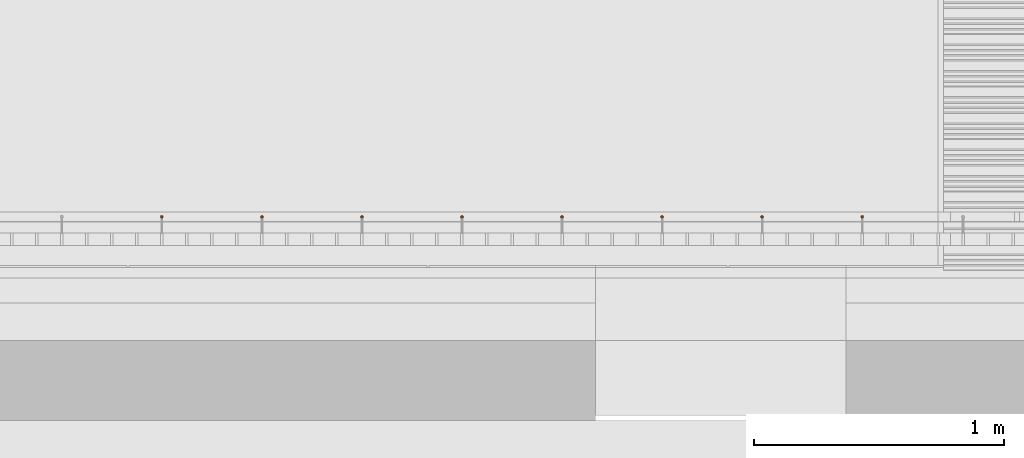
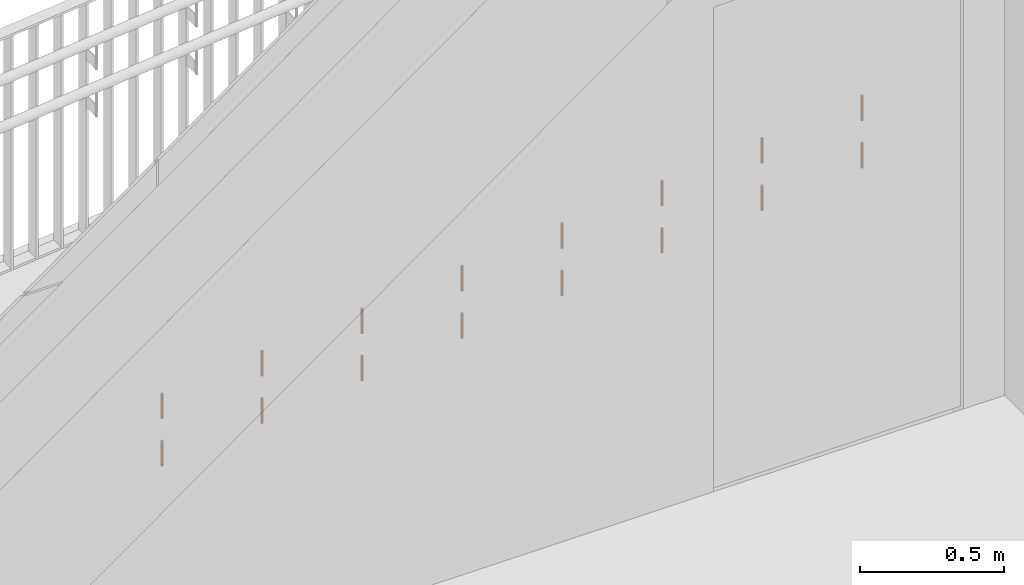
# One storey, part 369 of 418: 16 proxies.
"""IFC2X3 building model written with IfcOpenShell, lengths in millimetres."""

from ifc_helpers import new_model, entity, si_unit, converted_unit, derived_unit, money_unit, direction, frame, origin_with_axes, origin_2d_with_axis, place, context, subcontext, project, spatial, circle, extrude, material, type_object, element, save


model = new_model("IFC2X3")

# Units and contexts
model_context = context("Model", 3, precision=0.01, world=origin_with_axes(), true_north=direction((0.0, 1.0)))
body_context = subcontext(model_context, "Body", "Model", "MODEL_VIEW")
ifc_project = project(units=[si_unit("LENGTHUNIT", "METRE", prefix="MILLI"), si_unit("AREAUNIT", "SQUARE_METRE"), si_unit("VOLUMEUNIT", "CUBIC_METRE"), converted_unit("PLANEANGLEUNIT", "DEGREE", entity("IfcPlaneAngleMeasure", 0.0174532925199), si_unit("PLANEANGLEUNIT", "RADIAN"), dimensions=[0, 0, 0, 0, 0, 0, 0]), si_unit("SOLIDANGLEUNIT", "STERADIAN"), money_unit("EUR"), converted_unit("TIMEUNIT", "Year", entity("IfcTimeMeasure", 31556926.0), si_unit("TIMEUNIT", "SECOND"), dimensions=[0, 0, 1, 0, 0, 0, 0]), si_unit("MASSUNIT", "GRAM", prefix="KILO"), si_unit("THERMODYNAMICTEMPERATUREUNIT", "DEGREE_CELSIUS"), si_unit("LUMINOUSINTENSITYUNIT", "LUMEN"), si_unit("ENERGYUNIT", "JOULE", prefix="MEGA"), derived_unit("THERMALCONDUCTANCEUNIT", [(si_unit("POWERUNIT", "WATT"), 1), (si_unit("LENGTHUNIT", "METRE"), -1), (si_unit("THERMODYNAMICTEMPERATUREUNIT", "KELVIN"), -1)]), derived_unit("SPECIFICHEATCAPACITYUNIT", [(si_unit("ENERGYUNIT", "JOULE"), 1), (si_unit("MASSUNIT", "GRAM", prefix="KILO"), -1), (si_unit("THERMODYNAMICTEMPERATUREUNIT", "KELVIN"), -1)]), derived_unit("MASSDENSITYUNIT", [(si_unit("MASSUNIT", "GRAM", prefix="KILO"), 1), (si_unit("VOLUMEUNIT", "CUBIC_METRE"), -1)])], contexts=[model_context])

# Site, building, storey
site_placement = place(None, origin_with_axes())
site = spatial("IfcSite", under=ifc_project, at=site_placement, Name="Paldiski mnt 245/1, Tallinn, Harjumaa", CompositionType="COMPLEX")
building_placement = place(site_placement, origin_with_axes())
building = spatial("IfcBuilding", under=site, at=building_placement, Name="RKAS Hoone üldnimetus (kasutust iseloomustav) -> IFC Project Manager -> SOLIBRI", CompositionType="ELEMENT")
storey_placement = place(building_placement, origin_with_axes())
storey = spatial("IfcBuildingStorey", under=building, at=storey_placement, Name="Esimene korrus", CompositionType="ELEMENT", Elevation=0.0)

# Proxies
ifc_material = material(Name="ET-07_Teras - Roostevaba")
building_element_proxy_type = type_object("IfcBuildingElementProxyType", Name="ET-07_Teras - Roostevaba D10", PredefinedType="NOTDEFINED")
for number, where, z_axis, x_axis, name in (
    (1, (-56123.3394775, 36584.8286725, 263.943433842), (0.0, 0.0, 1.0), (0.0, 1.0, 0.0), "POST"),
    (2, (-56123.3394775, 36584.8286725, 463.943483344), (0.0, 0.0, 1.0), (0.0, 1.0, 0.0), "POST"),
    (3, (-55323.2887744, 36584.8286725, 543.948553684), (0.0, 0.0, 1.0), (0.0, 1.0, 0.0), "POST"),
    (4, (-55323.2887744, 36584.8286725, 343.948504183), (0.0, 0.0, 1.0), (0.0, 1.0, 0.0), "POST"),
    (5, (-54923.3394775, 36584.8286725, 583.943483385), (0.0, 0.0, 1.0), (0.0, 1.0, 0.0), "POST"),
    (6, (-55723.3394775, 36584.8286725, 503.943483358), (0.0, 0.0, 1.0), (0.0, 1.0, 0.0), "POST"),
    (7, (-55723.3394775, 36584.8286725, 303.943433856), (0.0, 0.0, 1.0), (0.0, 1.0, 0.0), "POST"),
    (8, (-54523.2887744, 36584.8286725, 623.948553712), (0.0, 0.0, 1.0), (0.0, 1.0, 0.0), "POST"),
    (9, (-54523.2887744, 36584.8286725, 423.948504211), (0.0, 0.0, 1.0), (0.0, 1.0, 0.0), "POST"),
    (10, (-54123.2887744, 36584.8286725, 663.948553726), (0.0, 0.0, 1.0), (0.0, 1.0, 0.0), "POST"),
    (11, (-54923.3394775, 36584.8286725, 383.943433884), (0.0, 0.0, 1.0), (0.0, 1.0, 0.0), "POST"),
    (12, (-56523.3901807, 36584.8286725, 223.938363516), (0.0, 0.0, 1.0), (0.0, 1.0, 0.0), "POST"),
    (13, (-56523.3901807, 36584.8286725, 423.938413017), (0.0, 0.0, 1.0), (0.0, 1.0, 0.0), "POST"),
    (14, (-54123.2887744, 36584.8286725, 463.948504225), (0.0, 0.0, 1.0), (0.0, 1.0, 0.0), "POST"),
    (15, (-53723.2380713, 36584.8286725, 703.953624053), (0.0, 0.0, 1.0), (0.0, 1.0, 0.0), "POST"),
    (16, (-53723.2380713, 36584.8286725, 503.953574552), (0.0, 0.0, 1.0), (0.0, 1.0, 0.0), "POST"),
):
    element("IfcBuildingElementProxy", number, at=place(storey_placement, frame(where, z_axis=z_axis, x_axis=x_axis)), inside=storey, type_object=building_element_proxy_type, material=ifc_material, Name=name, context=body_context, shape_type="SweptSolid", body=[
        extrude(circle(Radius=5.0, at=origin_2d_with_axis()), origin_with_axes(), (0.0, 0.0, 1.0), 106.0),
    ])

save(model, "model.ifc")
